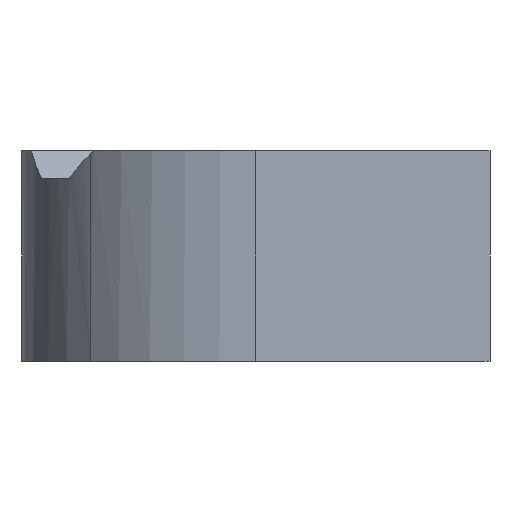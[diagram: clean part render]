
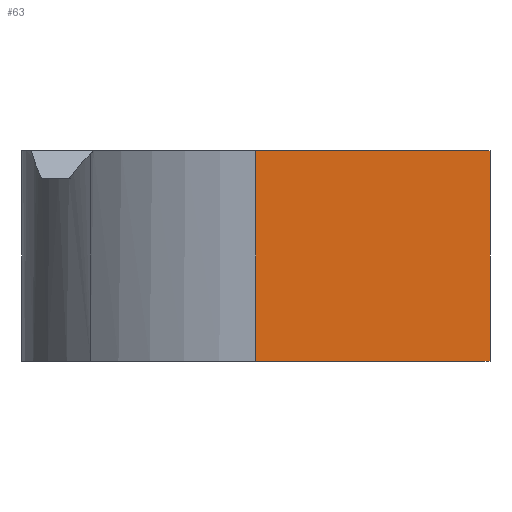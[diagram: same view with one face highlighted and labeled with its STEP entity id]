
A CAD part, left-side view. The second image highlights one B-rep face of the part: STEP entity #63.
In plain terms, the highlighted planar face has unit normal (-1, 0, 0).
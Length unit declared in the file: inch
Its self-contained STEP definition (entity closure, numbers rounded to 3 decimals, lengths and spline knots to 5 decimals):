
#63=ADVANCED_FACE('',(#139),#140,.T.);
#139=FACE_OUTER_BOUND('',#241,.T.);
#140=PLANE('',#242);
#241=EDGE_LOOP('',(#676,#677,#678,#679));
#242=AXIS2_PLACEMENT_3D('',#680,#681,#682);
#676=ORIENTED_EDGE('',*,*,#878,.F.);
#677=ORIENTED_EDGE('',*,*,#879,.T.);
#678=ORIENTED_EDGE('',*,*,#880,.F.);
#679=ORIENTED_EDGE('',*,*,#881,.F.);
#680=CARTESIAN_POINT('',(0.0,0.7874,0.35433));
#681=DIRECTION('',(-1.0,0.0,0.0));
#682=DIRECTION('',(0.0,0.0,-1.0));
#878=EDGE_CURVE('',#994,#995,#996,.T.);
#879=EDGE_CURVE('',#994,#997,#998,.T.);
#880=EDGE_CURVE('',#999,#997,#1000,.T.);
#881=EDGE_CURVE('',#995,#999,#1001,.T.);
#994=VERTEX_POINT('',#1176);
#995=VERTEX_POINT('',#1177);
#996=LINE('',#1178,#1179);
#997=VERTEX_POINT('',#1180);
#998=LINE('',#1181,#1182);
#999=VERTEX_POINT('',#1183);
#1000=LINE('',#1184,#1185);
#1001=LINE('',#1186,#1187);
#1176=CARTESIAN_POINT('',(0.0,0.3937,0.));
#1177=CARTESIAN_POINT('',(0.0,0.3937,0.35433));
#1178=CARTESIAN_POINT('',(0.0,0.3937,0.35433));
#1179=VECTOR('',#1406,0.3937);
#1180=CARTESIAN_POINT('',(0.0,0.,0.));
#1181=CARTESIAN_POINT('',(0.0,0.7874,0.));
#1182=VECTOR('',#1407,0.3937);
#1183=CARTESIAN_POINT('',(0.0,0.,0.35433));
#1184=CARTESIAN_POINT('',(0.0,0.,0.35433));
#1185=VECTOR('',#1408,0.3937);
#1186=CARTESIAN_POINT('',(0.0,0.7874,0.35433));
#1187=VECTOR('',#1409,0.3937);
#1406=DIRECTION('',(0.0,0.0,1.0));
#1407=DIRECTION('',(0.0,-1.0,0.0));
#1408=DIRECTION('',(0.0,0.0,-1.0));
#1409=DIRECTION('',(0.0,-1.0,0.0));
